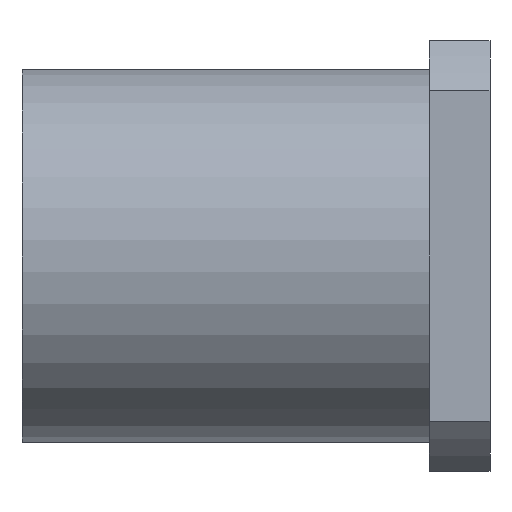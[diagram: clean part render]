
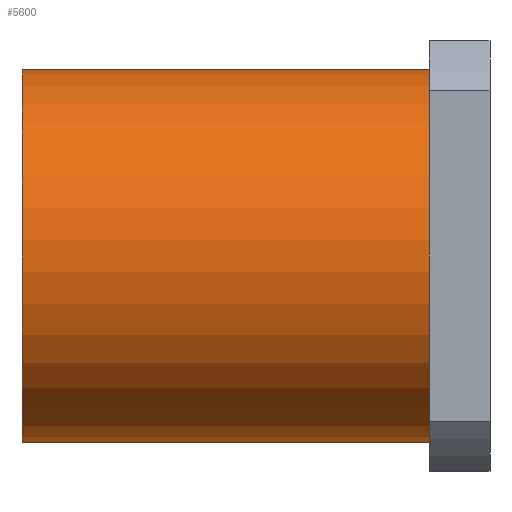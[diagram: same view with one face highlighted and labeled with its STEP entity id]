
A CAD part, front view. The second image highlights one B-rep face of the part: STEP entity #5600.
In plain terms, the highlighted cylindrical face has radius 40 mm (diameter 80 mm), a full revolution.
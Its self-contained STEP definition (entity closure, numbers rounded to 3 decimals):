
#82=CYLINDRICAL_SURFACE('',#5962,40.);
#117=CIRCLE('',#5963,40.);
#118=CIRCLE('',#5964,40.);
#1718=ORIENTED_EDGE('',*,*,#3333,.T.);
#1719=ORIENTED_EDGE('',*,*,#3334,.T.);
#3333=EDGE_CURVE('',#4139,#4139,#117,.T.);
#3334=EDGE_CURVE('',#4140,#4140,#118,.F.);
#4139=VERTEX_POINT('',#8885);
#4140=VERTEX_POINT('',#8887);
#4592=EDGE_LOOP('',(#1718));
#4593=EDGE_LOOP('',(#1719));
#4993=FACE_BOUND('',#4592,.T.);
#4994=FACE_BOUND('',#4593,.T.);
#5600=ADVANCED_FACE('',(#4993,#4994),#82,.T.);
#5962=AXIS2_PLACEMENT_3D('',#8883,#6494,#6495);
#5963=AXIS2_PLACEMENT_3D('',#8884,#6496,#6497);
#5964=AXIS2_PLACEMENT_3D('',#8886,#6498,#6499);
#6494=DIRECTION('',(1.,0.,0.));
#6495=DIRECTION('',(0.,0.707,-0.707));
#6496=DIRECTION('',(1.,0.,0.));
#6497=DIRECTION('',(0.,0.707,-0.707));
#6498=DIRECTION('',(1.,0.,0.));
#6499=DIRECTION('',(0.,0.707,-0.707));
#8883=CARTESIAN_POINT('',(-50.,0.,0.));
#8884=CARTESIAN_POINT('',(-50.,0.,0.));
#8885=CARTESIAN_POINT('',(-50.,28.284,-28.284));
#8886=CARTESIAN_POINT('',(37.,0.,0.));
#8887=CARTESIAN_POINT('',(37.,28.284,-28.284));
